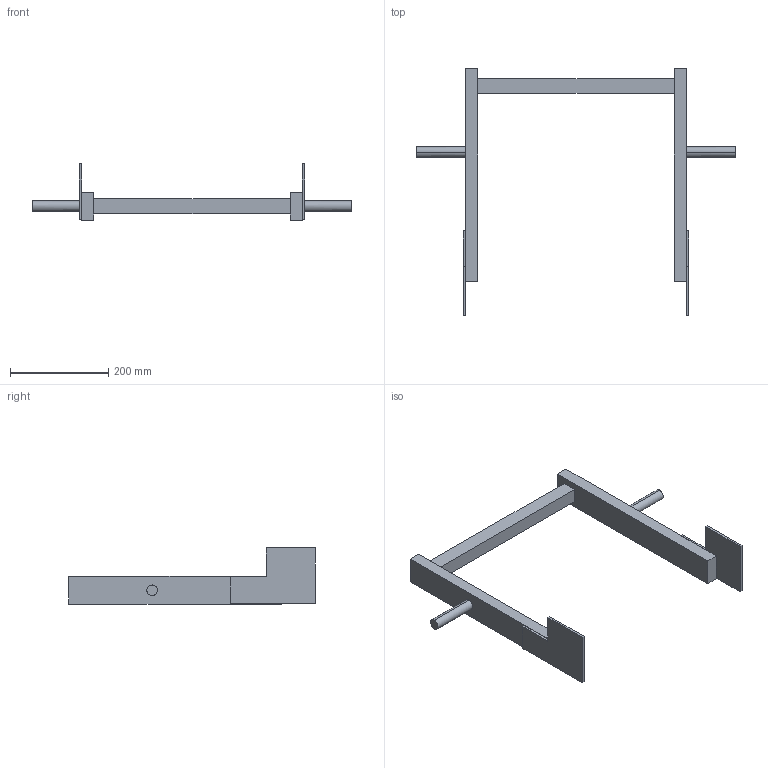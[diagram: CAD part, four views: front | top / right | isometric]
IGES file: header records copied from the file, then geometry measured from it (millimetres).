
Start section:  PTC IGES file: 52330574.igs
Global section: file name: 52330574.igs; native system: Creo Parametric by PTC Inc.; preprocessor: 2022162; author: wep; organization: Unknown; date: 20241218.080752; units: millimetre
Bounding box: 650 x 503 x 115 mm (x, y, z)
Surface area: 251863.2 mm2 (no closed solid volume)
Topology: 0 solids, 0 shells, 38 faces, 184 edges, 184 vertices
Faces by surface type: bspline 34, revolution 4
